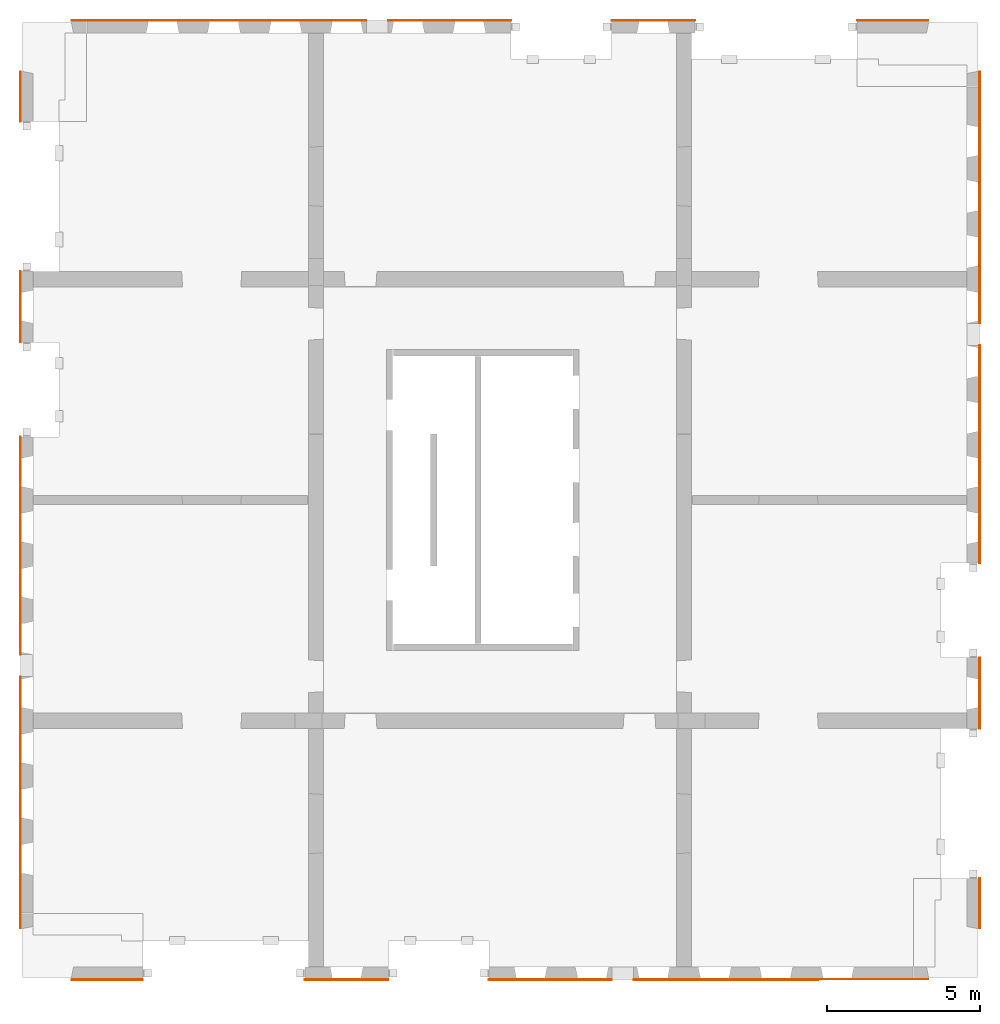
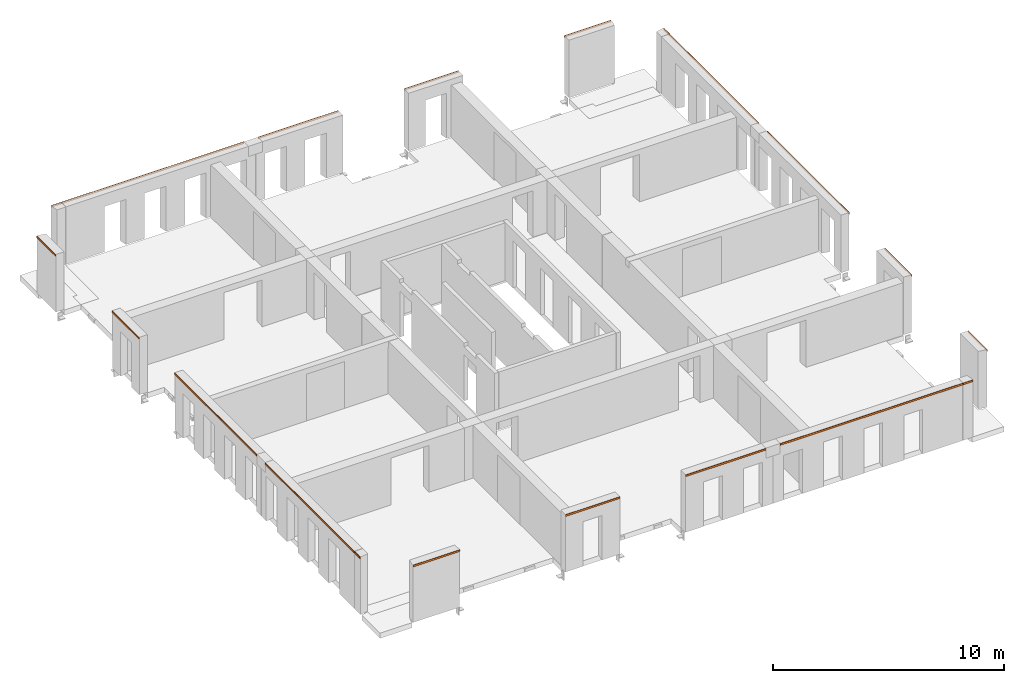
# One storey, part 6 of 6: 20 proxies.
"""IFC2X3 building model written with IfcOpenShell, lengths in millimetres."""

from ifc_helpers import new_model, entity, si_unit, converted_unit, derived_unit, direction, frame, frame_2d, origin, origin_2d_with_axis, place, context, subcontext, project, spatial, rectangle, extrude, element, save


model = new_model("IFC2X3")

# Units and contexts
model_context = context("Model", 3, precision=0.01, world=origin(), true_north=direction((6.12303176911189e-17, 1.0)))
body_context = subcontext(model_context, "Body", "Model", "MODEL_VIEW")
ifc_project = project(units=[si_unit("LENGTHUNIT", "METRE", prefix="MILLI"), si_unit("AREAUNIT", "SQUARE_METRE"), si_unit("VOLUMEUNIT", "CUBIC_METRE"), converted_unit("PLANEANGLEUNIT", "DEGREE", entity("IfcRatioMeasure", 0.0174532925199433), si_unit("PLANEANGLEUNIT", "RADIAN"), dimensions=[0, 0, 0, 0, 0, 0, 0]), si_unit("MASSUNIT", "GRAM", prefix="KILO"), derived_unit("MASSDENSITYUNIT", [(si_unit("MASSUNIT", "GRAM", prefix="KILO"), 1), (si_unit("LENGTHUNIT", "METRE"), -3)]), si_unit("TIMEUNIT", "SECOND"), si_unit("FREQUENCYUNIT", "HERTZ"), si_unit("THERMODYNAMICTEMPERATUREUNIT", "DEGREE_CELSIUS"), derived_unit("THERMALTRANSMITTANCEUNIT", [(si_unit("MASSUNIT", "GRAM", prefix="KILO"), 1), (si_unit("THERMODYNAMICTEMPERATUREUNIT", "KELVIN"), -1), (si_unit("TIMEUNIT", "SECOND"), -3)]), derived_unit("VOLUMETRICFLOWRATEUNIT", [(si_unit("LENGTHUNIT", "METRE"), 3), (si_unit("TIMEUNIT", "SECOND"), -1)]), si_unit("ELECTRICCURRENTUNIT", "AMPERE"), si_unit("ELECTRICVOLTAGEUNIT", "VOLT"), si_unit("POWERUNIT", "WATT"), si_unit("FORCEUNIT", "NEWTON", prefix="KILO"), si_unit("ILLUMINANCEUNIT", "LUX"), si_unit("LUMINOUSFLUXUNIT", "LUMEN"), si_unit("LUMINOUSINTENSITYUNIT", "CANDELA"), derived_unit("USERDEFINED", [(si_unit("MASSUNIT", "GRAM", prefix="KILO"), -1), (si_unit("LENGTHUNIT", "METRE"), -2), (si_unit("TIMEUNIT", "SECOND"), 3), (si_unit("LUMINOUSFLUXUNIT", "LUMEN"), 1)]), derived_unit("LINEARVELOCITYUNIT", [(si_unit("LENGTHUNIT", "METRE"), 1), (si_unit("TIMEUNIT", "SECOND"), -1)]), si_unit("PRESSUREUNIT", "PASCAL"), derived_unit("USERDEFINED", [(si_unit("LENGTHUNIT", "METRE"), -2), (si_unit("MASSUNIT", "GRAM", prefix="KILO"), 1), (si_unit("TIMEUNIT", "SECOND"), -2)])], contexts=[model_context])

# Site, building, storey
site_placement = place(None, origin())
site = spatial("IfcSite", under=ifc_project, at=site_placement, Name="Default", CompositionType="ELEMENT")
building_placement = place(site_placement, origin())
building = spatial("IfcBuilding", under=site, at=building_placement, Name="niet gebruiken", CompositionType="ELEMENT")
storey_placement = place(building_placement, frame((0.0, 0.0, 21060.0)))
storey = spatial("IfcBuildingStorey", under=building, at=storey_placement, Name="06 zesde verdieping", CompositionType="ELEMENT", Elevation=21060.0)

# Proxies
proxy_1_placement = place(storey_placement, origin())
element("IfcBuildingElementProxy", 1, at=proxy_1_placement, inside=storey, context=body_context, shape_type="SweptSolid", body=[
    extrude(rectangle(XDim=7704.99999999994, YDim=19.9999999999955, at=frame_2d((4.54747350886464e-13, -1.73256964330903e-11), x_axis=(1.0, 0.0))), frame((126110.0, 7892.49999999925, 2890.0), z_axis=(0.0, 0.0, 1.0), x_axis=(0.0, 1.0, 0.0)), (0.0, 0.0, 1.0), 99.9999999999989),
])
proxy_2_placement = place(storey_placement, origin())
element("IfcBuildingElementProxy", 2, at=proxy_2_placement, inside=storey, context=body_context, shape_type="SweptSolid", body=[
    extrude(rectangle(XDim=2319.99999999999, YDim=19.9999999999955, at=frame_2d((0.0, 1.73256964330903e-11), x_axis=(1.0, 0.0))), frame((157390.0, 11200.0, 2890.0), z_axis=(0.0, 0.0, 1.0), x_axis=(0.0, -1.0, 0.0)), (0.0, 0.0, 1.0), 99.9999999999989),
])
proxy_3_placement = place(storey_placement, origin())
element("IfcBuildingElementProxy", 3, at=proxy_3_placement, inside=storey, context=body_context, shape_type="SweptSolid", body=[
    extrude(rectangle(XDim=2319.99999999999, YDim=19.9999999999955, at=frame_2d((-2.1600499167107e-12, 1.73256964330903e-11), x_axis=(1.0, 0.0))), frame((126110.0, 23800.0, 2890.0), z_axis=(0.0, 0.0, 1.0), x_axis=(0.0, 1.0, 0.0)), (0.0, 0.0, 1.0), 99.9999999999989),
])
proxy_4_placement = place(storey_placement, origin())
element("IfcBuildingElementProxy", 4, at=proxy_4_placement, inside=storey, context=body_context, shape_type="SweptSolid", body=[
    extrude(rectangle(XDim=2720.00000000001, YDim=20.0000000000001, at=frame_2d((0.0, -1.35891298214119e-13), x_axis=(1.0, 0.0))), frame((136750.0, 1860.0, 2890.0), z_axis=(0.0, 0.0, 1.0), x_axis=(-1.0, 0.0, 0.0)), (0.0, 0.0, 1.0), 99.9999999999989),
])
proxy_5_placement = place(storey_placement, origin())
element("IfcBuildingElementProxy", 5, at=proxy_5_placement, inside=storey, context=body_context, shape_type="SweptSolid", body=[
    extrude(rectangle(XDim=2720.00000000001, YDim=19.9999999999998, at=frame_2d((0.0, 2.16626716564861e-12), x_axis=(1.0, 0.0))), frame((146750.0, 33140.0, 2890.0)), (0.0, 0.0, 1.0), 99.9999999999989),
])
proxy_6_placement = place(storey_placement, origin())
element("IfcBuildingElementProxy", 6, at=proxy_6_placement, inside=storey, context=body_context, shape_type="SweptSolid", body=[
    extrude(rectangle(XDim=9104.99999999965, YDim=19.9999999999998, at=frame_2d((-1.72803993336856e-11, 0.0), x_axis=(1.0, 0.0))), frame((132842.5, 33140.0, 2890.0)), (0.0, 0.0, 1.0), 99.9999999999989),
])
proxy_7_placement = place(storey_placement, origin())
element("IfcBuildingElementProxy", 7, at=proxy_7_placement, inside=storey, context=body_context, shape_type="SweptSolid", body=[
    extrude(rectangle(XDim=490.000000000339, YDim=20.0000000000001, at=origin_2d_with_axis()), frame((155475.0, 1860.0, 2890.0), z_axis=(0.0, 0.0, 1.0), x_axis=(-1.0, 0.0, 0.0)), (0.0, 0.0, 1.0), 99.9999999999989),
])
proxy_8_placement = place(storey_placement, origin())
element("IfcBuildingElementProxy", 8, at=proxy_8_placement, inside=storey, context=body_context, shape_type="SweptSolid", body=[
    extrude(rectangle(XDim=1629.99999999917, YDim=19.9999999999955, at=origin_2d_with_axis()), frame((157390.0, 4345.0, 2890.0), z_axis=(0.0, 0.0, 1.0), x_axis=(0.0, -1.0, 0.0)), (0.0, 0.0, 1.0), 99.9999999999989),
])
proxy_9_placement = place(storey_placement, origin())
element("IfcBuildingElementProxy", 9, at=proxy_9_placement, inside=storey, context=body_context, shape_type="SweptSolid", body=[
    extrude(rectangle(XDim=490.000000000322, YDim=19.9999999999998, at=frame_2d((8.65441052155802e-12, -2.16626716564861e-12), x_axis=(1.0, 0.0))), frame((128025.0, 33140.0, 2890.0)), (0.0, 0.0, 1.0), 99.9999999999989),
])
proxy_10_placement = place(storey_placement, origin())
element("IfcBuildingElementProxy", 10, at=proxy_10_placement, inside=storey, context=body_context, shape_type="SweptSolid", body=[
    extrude(rectangle(XDim=1629.99999999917, YDim=19.9999999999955, at=frame_2d((0.0, 8.66329230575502e-12), x_axis=(1.0, 0.0))), frame((126110.0, 30655.0, 2890.0), z_axis=(0.0, 0.0, 1.0), x_axis=(0.0, 1.0, 0.0)), (0.0, 0.0, 1.0), 99.9999999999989),
])
proxy_11_placement = place(storey_placement, origin())
element("IfcBuildingElementProxy", 11, at=proxy_11_placement, inside=storey, context=body_context, shape_type="SweptSolid", body=[
    extrude(rectangle(XDim=2330.00000000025, YDim=20.0000000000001, at=frame_2d((-8.75388650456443e-12, 1.35891298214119e-13), x_axis=(1.0, 0.0))), frame((128945.0, 1860.0, 2890.0), z_axis=(0.0, 0.0, 1.0), x_axis=(-1.0, 0.0, 0.0)), (0.0, 0.0, 1.0), 99.9999999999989),
])
proxy_12_placement = place(storey_placement, origin())
element("IfcBuildingElementProxy", 12, at=proxy_12_placement, inside=storey, context=body_context, shape_type="SweptSolid", body=[
    extrude(rectangle(XDim=490.0, YDim=19.9999999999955, at=frame_2d((0.0, -8.66329230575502e-12), x_axis=(1.0, 0.0))), frame((126110.0, 3775.0, 2890.0), z_axis=(0.0, 0.0, 1.0), x_axis=(0.0, 1.0, 0.0)), (0.0, 0.0, 1.0), 99.9999999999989),
])
proxy_13_placement = place(storey_placement, origin())
element("IfcBuildingElementProxy", 13, at=proxy_13_placement, inside=storey, context=body_context, shape_type="SweptSolid", body=[
    extrude(rectangle(XDim=2330.00000000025, YDim=19.9999999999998, at=frame_2d((-8.64019966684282e-12, -2.16626716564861e-12), x_axis=(1.0, 0.0))), frame((154555.0, 33140.0, 2890.0)), (0.0, 0.0, 1.0), 99.9999999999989),
])
proxy_14_placement = place(storey_placement, origin())
element("IfcBuildingElementProxy", 14, at=proxy_14_placement, inside=storey, context=body_context, shape_type="SweptSolid", body=[
    extrude(rectangle(XDim=490.000000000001, YDim=19.9999999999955, at=frame_2d((-2.1600499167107e-12, 1.73256964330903e-11), x_axis=(1.0, 0.0))), frame((157390.0, 31225.0, 2890.0), z_axis=(0.0, 0.0, 1.0), x_axis=(0.0, -1.0, 0.0)), (0.0, 0.0, 1.0), 99.9999999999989),
])
proxy_15_placement = place(storey_placement, origin())
element("IfcBuildingElementProxy", 15, at=proxy_15_placement, inside=storey, context=body_context, shape_type="SweptSolid", body=[
    extrude(rectangle(XDim=7105.00000000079, YDim=19.9999999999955, at=frame_2d((1.13686837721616e-12, 0.0), x_axis=(1.0, 0.0))), frame((126110.0, 16007.4999999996, 2890.0), z_axis=(0.0, 0.0, 1.0), x_axis=(0.0, 1.0, 0.0)), (0.0, 0.0, 1.0), 99.9999999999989),
])
proxy_16_placement = place(storey_placement, origin())
element("IfcBuildingElementProxy", 16, at=proxy_16_placement, inside=storey, context=body_context, shape_type="SweptSolid", body=[
    extrude(rectangle(XDim=4005.00000000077, YDim=19.9999999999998, at=origin_2d_with_axis()), frame((140107.5, 33140.0, 2890.0)), (0.0, 0.0, 1.0), 99.9999999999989),
])
proxy_17_placement = place(storey_placement, origin())
element("IfcBuildingElementProxy", 17, at=proxy_17_placement, inside=storey, context=body_context, shape_type="SweptSolid", body=[
    extrude(rectangle(XDim=9104.99999999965, YDim=20.0000000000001, at=frame_2d((0.0, 2.70894418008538e-13), x_axis=(1.0, 0.0))), frame((150657.5, 1860.0, 2890.0), z_axis=(0.0, 0.0, 1.0), x_axis=(-1.0, 0.0, 0.0)), (0.0, 0.0, 1.0), 99.9999999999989),
])
proxy_18_placement = place(storey_placement, origin())
element("IfcBuildingElementProxy", 18, at=proxy_18_placement, inside=storey, context=body_context, shape_type="SweptSolid", body=[
    extrude(rectangle(XDim=4005.00000000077, YDim=20.0000000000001, at=frame_2d((0.0, 1.35891298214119e-13), x_axis=(1.0, 0.0))), frame((143392.5, 1860.0, 2890.0), z_axis=(0.0, 0.0, 1.0), x_axis=(-1.0, 0.0, 0.0)), (0.0, 0.0, 1.0), 99.9999999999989),
])
proxy_19_placement = place(storey_placement, origin())
element("IfcBuildingElementProxy", 19, at=proxy_19_placement, inside=storey, context=body_context, shape_type="SweptSolid", body=[
    extrude(rectangle(XDim=7704.99999999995, YDim=19.9999999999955, at=frame_2d((2.04636307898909e-12, 0.0), x_axis=(1.0, 0.0))), frame((157390.0, 27107.5000000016, 2890.0), z_axis=(0.0, 0.0, 1.0), x_axis=(0.0, -1.0, 0.0)), (0.0, 0.0, 1.0), 99.9999999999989),
])
proxy_20_placement = place(storey_placement, origin())
element("IfcBuildingElementProxy", 20, at=proxy_20_placement, inside=storey, context=body_context, shape_type="SweptSolid", body=[
    extrude(rectangle(XDim=7105.00000000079, YDim=19.9999999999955, at=frame_2d((-1.13686837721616e-12, 0.0), x_axis=(1.0, 0.0))), frame((157390.0, 18992.5000000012, 2890.0), z_axis=(0.0, 0.0, 1.0), x_axis=(0.0, -1.0, 0.0)), (0.0, 0.0, 1.0), 99.9999999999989),
])

save(model, "model.ifc")
